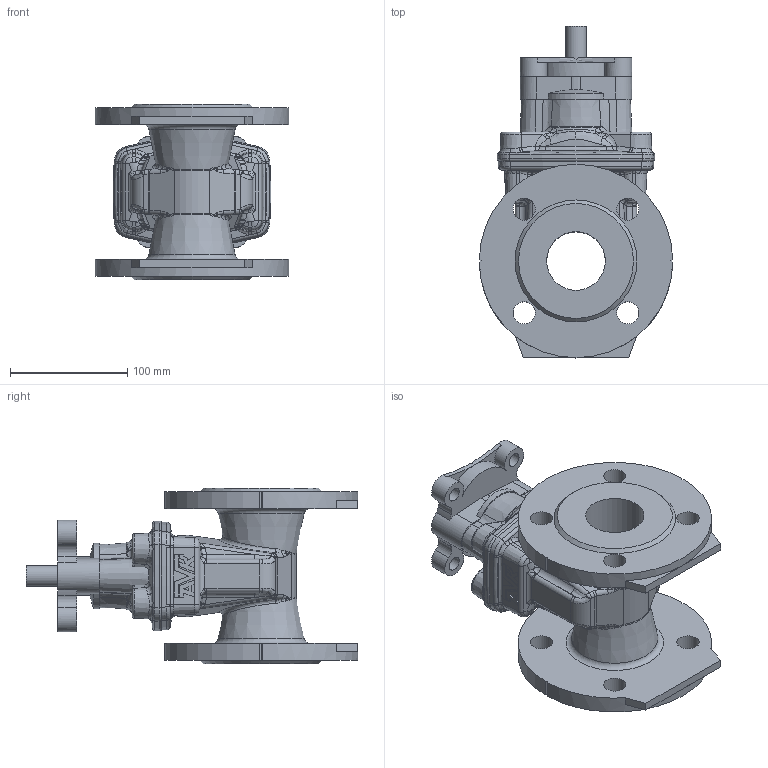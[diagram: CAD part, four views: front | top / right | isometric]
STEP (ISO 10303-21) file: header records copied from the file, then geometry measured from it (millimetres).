
FILE_DESCRIPTION (( 'STEP AP203' ), '1' );
FILE_NAME ('O_06_42_DN050_X1XXX_REV02.step', '2025-12-18T06:50:40', ( '' ), ( '' ), 'SwSTEP 2.0', 'SolidWorks 2022', '' );
FILE_SCHEMA (( 'CONFIG_CONTROL_DESIGN' ));
Length unit declared in the file: millimetre
Products named in the file (1): O_06_42_DN050_X1XXX_REV02
Bounding box: 164.97 x 283 x 150 mm (x, y, z)
Volume: 1684077.8 mm3; surface area: 217873.7 mm2
Topology: 1 solids, 1 shells, 594 faces, 1467 edges, 869 vertices
Faces by surface type: bspline 236, plane 144, cylinder 98, cone 66, torus 50
Full cylindrical faces by diameter (mm): 12 x4, 18 x1, 19 x8, 50 x1, 72 x1
Entity records: 24350 total; most frequent: CARTESIAN_POINT 12246, ORIENTED_EDGE 2832, DIRECTION 2095, EDGE_CURVE 1416, VERTEX_POINT 855, AXIS2_PLACEMENT_3D 852, EDGE_LOOP 651, FACE_OUTER_BOUND 611
